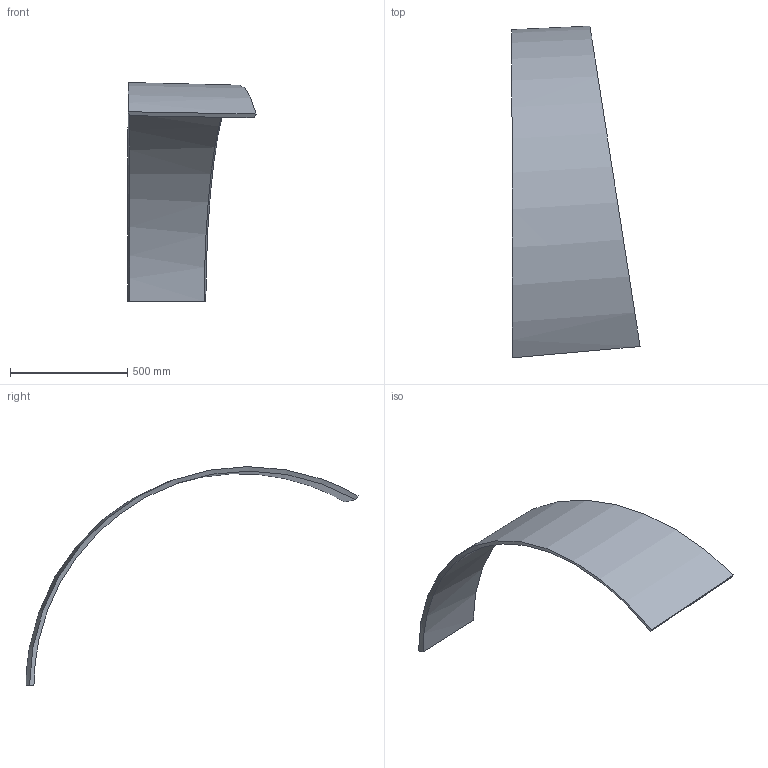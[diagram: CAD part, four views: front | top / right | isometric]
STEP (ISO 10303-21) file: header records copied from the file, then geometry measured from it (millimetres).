
FILE_DESCRIPTION (( 'STEP AP214' ), '1' );
FILE_NAME ('P13.2.STEP', '2025-01-09T19:43:26', ( '' ), ( '' ), 'SwSTEP 2.0', 'SolidWorks 2024', '' );
FILE_SCHEMA (( 'AUTOMOTIVE_DESIGN' ));
Length unit declared in the file: inch
Products named in the file (1): P13.2
Bounding box: 546.09 x 1413.78 x 931.84 mm (x, y, z)
Volume: 14921268.1 mm3; surface area: 1661536.4 mm2
Topology: 1 solids, 1 shells, 6 faces, 12 edges, 8 vertices
Faces by surface type: bspline 6
Entity records: 1589 total; most frequent: CARTESIAN_POINT 1475, ORIENTED_EDGE 24, EDGE_CURVE 12, B_SPLINE_CURVE_WITH_KNOTS 12, VERTEX_POINT 8, EDGE_LOOP 6, B_SPLINE_SURFACE_WITH_KNOTS 6, ADVANCED_FACE 6
